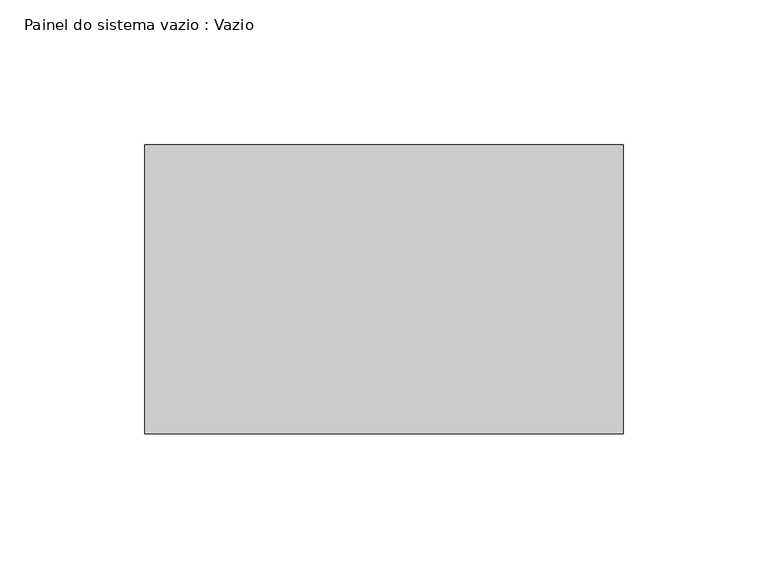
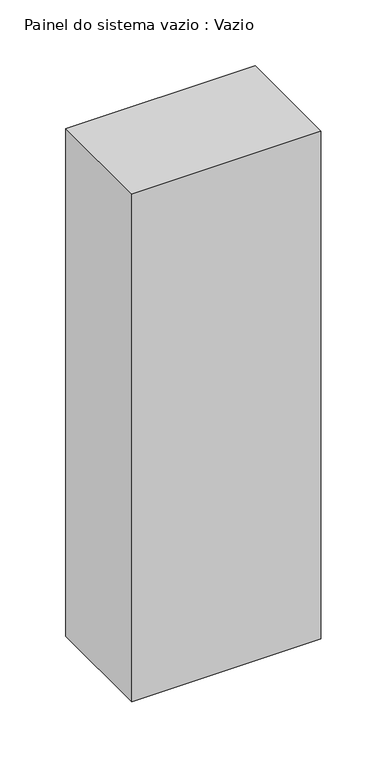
"""IFC4 building model written with IfcOpenShell, lengths in millimetres: plate geometry, Painel do sistema vazio : Vazio."""

from ifc_helpers import new_model, si_unit, origin, origin_with_axes, place, context, project, spatial, polyline, outline, extrude, source, transform, mapped, element, save


def painel_do_sistema_vazio_vazio_54d91eb3(model_context):
    return source(origin(), model_context, "Body", "SweptSolid", [
        extrude(outline(polyline([(82.7388429, -50.0), (-82.7388429, -50.0), (-82.7388429, 50.0), (82.7388429, 50.0), (82.7388429, -50.0)])), origin_with_axes(), (0.0, 0.0, 1.0), 470.0),
    ])


if __name__ == "__main__":
    model = new_model("IFC4")
    model_context = context("Model", 3, world=origin())
    ifc_project = project(units=[si_unit("LENGTHUNIT", "METRE", prefix="MILLI")], contexts=[model_context])
    site = spatial("IfcSite", under=ifc_project)
    building = spatial("IfcBuilding", under=site)
    placement = place(None, origin())
    painel_do_sistema_vazio_vazio_shape = painel_do_sistema_vazio_vazio_54d91eb3(model_context)
    element("IfcPlate", 1, ObjectType="Painel do sistema vazio : Vazio", at=placement, inside=building, context=model_context, shape_type="MappedRepresentation", body=[
        mapped(painel_do_sistema_vazio_vazio_shape, transform((0.0, 0.0, 0.0), x_axis=(1.0, 0.0, 0.0), y_axis=(0.0, 1.0, 0.0), z_axis=(0.0, 0.0, 1.0))),
    ])
    save(model, "model.ifc")
